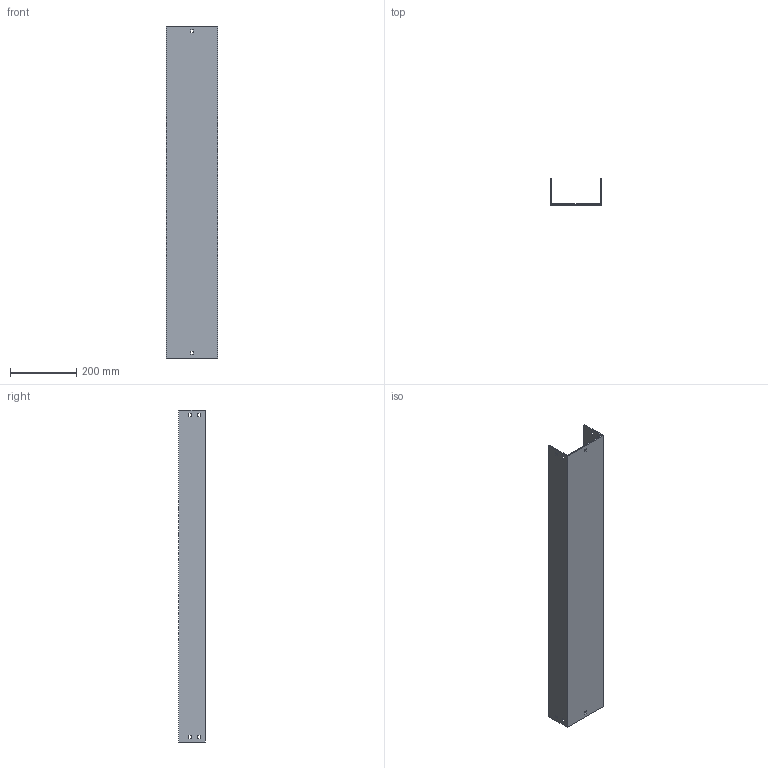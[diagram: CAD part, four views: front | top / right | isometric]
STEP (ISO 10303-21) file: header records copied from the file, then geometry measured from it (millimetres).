
FILE_DESCRIPTION (( 'STEP AP214' ), '1' );
FILE_NAME ('03F1C150.step', '2025-02-21T13:31:16', ( '' ), ( '' ), 'SwSTEP 2.0', 'SolidWorks 2023', '' );
FILE_SCHEMA (( 'AUTOMOTIVE_DESIGN' ));
Length unit declared in the file: millimetre
Products named in the file (1): 03F1C150
Bounding box: 154 x 79 x 1000 mm (x, y, z)
Volume: 1065130.5 mm3; surface area: 618950 mm2
Topology: 1 solids, 1 shells, 50 faces, 144 edges, 96 vertices
Faces by surface type: plane 50
Entity records: 1671 total; most frequent: CARTESIAN_POINT 291, ORIENTED_EDGE 288, DIRECTION 246, LINE 144, VECTOR 144, EDGE_CURVE 144, VERTEX_POINT 96, EDGE_LOOP 70
